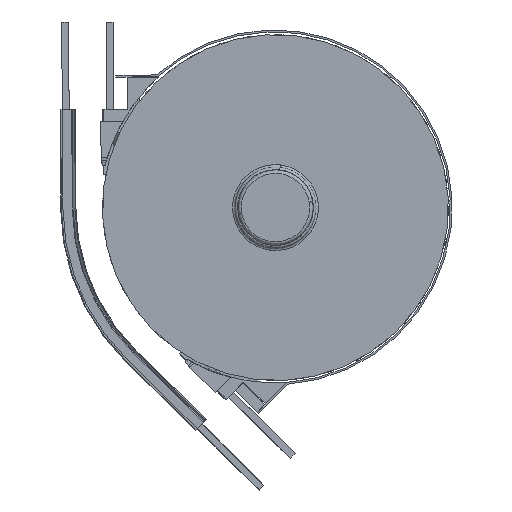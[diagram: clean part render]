
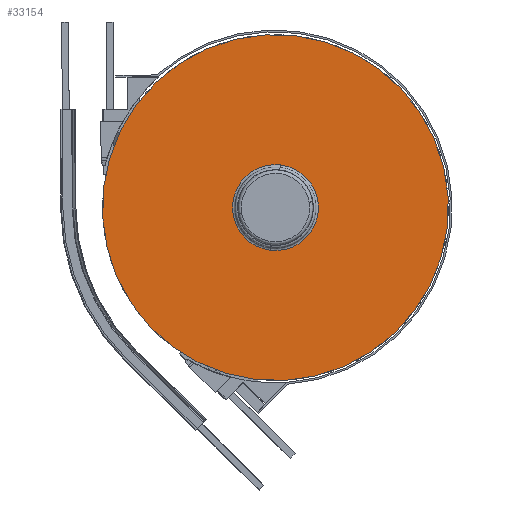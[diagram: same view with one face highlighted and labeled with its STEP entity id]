
A CAD part, left-side view. The second image highlights one B-rep face of the part: STEP entity #33154.
In plain terms, the highlighted planar face has unit normal (-1, 0, 0) as drawn and (0, 0, 1) by its records, which use the part's own axes.
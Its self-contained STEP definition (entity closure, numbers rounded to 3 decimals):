
#6273 = AXIS2_PLACEMENT_3D ( 'NONE', #15795, #15793, #15800 ) ;
#8883 = AXIS2_PLACEMENT_3D ( 'NONE', #29818, #29819, #29820 ) ;
#8884 = CIRCLE ( 'NONE', #8883, 139. ) ;
#10957 = VERTEX_POINT ( 'NONE', #22416 ) ;
#12791 = ORIENTED_EDGE ( 'NONE', *, *, #20998, .T. ) ;
#12793 = ORIENTED_EDGE ( 'NONE', *, *, #20934, .T. ) ;
#12795 = ORIENTED_EDGE ( 'NONE', *, *, #20970, .F. ) ;
#12797 = ORIENTED_EDGE ( 'NONE', *, *, #20999, .F. ) ;
#14591 = CARTESIAN_POINT ( 'NONE',  ( 756.8, 0., 21.9 ) ) ;
#14593 = CARTESIAN_POINT ( 'NONE',  ( 930.3, 0., 21.9 ) ) ;
#15791 = FACE_BOUND ( 'NONE', #22226, .T. ) ;
#15793 = DIRECTION ( 'NONE',  ( 0., 0., -1. ) ) ;
#15795 = CARTESIAN_POINT ( 'NONE',  ( 895.8, 0., 21.9 ) ) ;
#15797 = FACE_OUTER_BOUND ( 'NONE', #22248, .T. ) ;
#15798 = PLANE ( 'NONE',  #6273 ) ;
#15800 = DIRECTION ( 'NONE',  ( -1., 0., 0. ) ) ;
#20934 = EDGE_CURVE ( 'NONE', #22271, #21950, #31600, .T. ) ;
#20970 = EDGE_CURVE ( 'NONE', #22268, #10957, #31592, .T. ) ;
#20998 = EDGE_CURVE ( 'NONE', #21950, #22271, #31579, .T. ) ;
#20999 = EDGE_CURVE ( 'NONE', #10957, #22268, #8884, .T. ) ;
#21950 = VERTEX_POINT ( 'NONE', #30889 ) ;
#22226 = EDGE_LOOP ( 'NONE', ( #12791, #12793 ) ) ;
#22248 = EDGE_LOOP ( 'NONE', ( #12795, #12797 ) ) ;
#22268 = VERTEX_POINT ( 'NONE', #14591 ) ;
#22271 = VERTEX_POINT ( 'NONE', #14593 ) ;
#22416 = CARTESIAN_POINT ( 'NONE',  ( 1034.8, 0., 21.9 ) ) ;
#29507 = CARTESIAN_POINT ( 'NONE',  ( 895.8, 0., 21.9 ) ) ;
#29508 = DIRECTION ( 'NONE',  ( 0., 0., -1. ) ) ;
#29509 = DIRECTION ( 'NONE',  ( -1., 0., 0. ) ) ;
#29656 = CARTESIAN_POINT ( 'NONE',  ( 895.8, 0., 21.9 ) ) ;
#29657 = DIRECTION ( 'NONE',  ( 0., 0., -1. ) ) ;
#29658 = DIRECTION ( 'NONE',  ( -1., 0., 0. ) ) ;
#29815 = CARTESIAN_POINT ( 'NONE',  ( 895.8, 0., 21.9 ) ) ;
#29816 = DIRECTION ( 'NONE',  ( 0., 0., -1. ) ) ;
#29817 = DIRECTION ( 'NONE',  ( -1., 0., 0. ) ) ;
#29818 = CARTESIAN_POINT ( 'NONE',  ( 895.8, 0., 21.9 ) ) ;
#29819 = DIRECTION ( 'NONE',  ( 0., 0., -1. ) ) ;
#29820 = DIRECTION ( 'NONE',  ( -1., 0., 0. ) ) ;
#30889 = CARTESIAN_POINT ( 'NONE',  ( 861.3, 0., 21.9 ) ) ;
#31561 = AXIS2_PLACEMENT_3D ( 'NONE', #29507, #29508, #29509 ) ;
#31569 = AXIS2_PLACEMENT_3D ( 'NONE', #29815, #29816, #29817 ) ;
#31579 = CIRCLE ( 'NONE', #31569, 34.5 ) ;
#31592 = CIRCLE ( 'NONE', #31605, 139. ) ;
#31600 = CIRCLE ( 'NONE', #31561, 34.5 ) ;
#31605 = AXIS2_PLACEMENT_3D ( 'NONE', #29656, #29657, #29658 ) ;
#33154 = ADVANCED_FACE ( 'NONE', ( #15791, #15797 ), #15798, .F. ) ;
